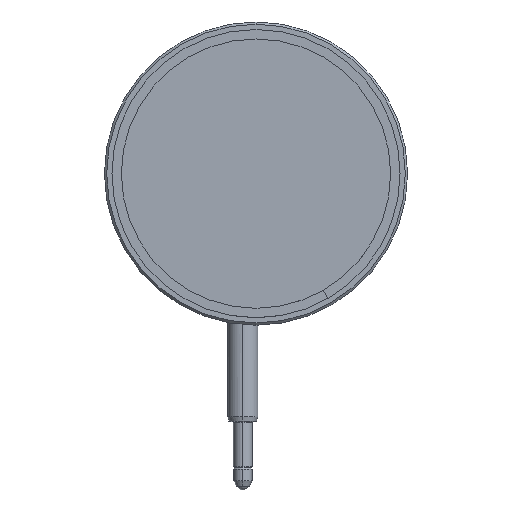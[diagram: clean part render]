
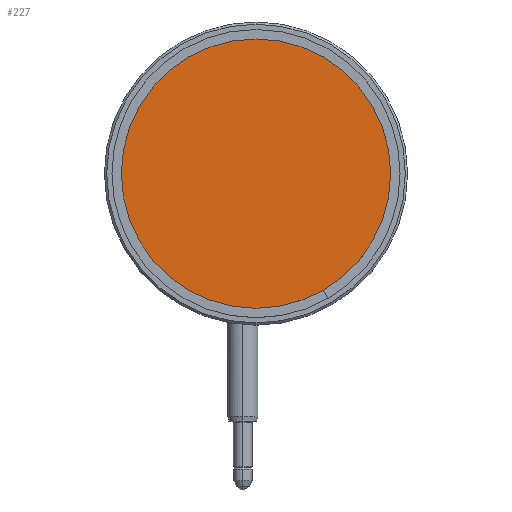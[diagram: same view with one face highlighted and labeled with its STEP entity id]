
A CAD part, front view. The second image highlights one B-rep face of the part: STEP entity #227.
In plain terms, the highlighted planar face has unit normal (0, -1, 0).
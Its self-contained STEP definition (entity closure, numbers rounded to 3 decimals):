
#227=ADVANCED_FACE('',(#535),#536,.T.);
#535=FACE_OUTER_BOUND('',#946,.T.);
#536=PLANE('',#947);
#946=EDGE_LOOP('',(#1577,#1578,#1579,#1580,#1581,#1582));
#947=AXIS2_PLACEMENT_3D('',#1583,#1584,#1585);
#1577=ORIENTED_EDGE('',*,*,#2501,.T.);
#1578=ORIENTED_EDGE('',*,*,#2474,.T.);
#1579=ORIENTED_EDGE('',*,*,#2503,.T.);
#1580=ORIENTED_EDGE('',*,*,#2478,.T.);
#1581=ORIENTED_EDGE('',*,*,#2504,.T.);
#1582=ORIENTED_EDGE('',*,*,#2493,.T.);
#1583=CARTESIAN_POINT('',(0.0,-15.35,0.0));
#1584=DIRECTION('',(0.0,-1.0,0.0));
#1585=DIRECTION('',(1.0,0.0,0.0));
#2474=EDGE_CURVE('',#3007,#3004,#3008,.T.);
#2478=EDGE_CURVE('',#3015,#3013,#3016,.T.);
#2493=EDGE_CURVE('',#3038,#3036,#3039,.T.);
#2501=EDGE_CURVE('',#3036,#3007,#3050,.T.);
#2503=EDGE_CURVE('',#3004,#3015,#3052,.T.);
#2504=EDGE_CURVE('',#3013,#3038,#3053,.T.);
#3004=VERTEX_POINT('',#3783);
#3007=VERTEX_POINT('',#3787);
#3008=CIRCLE('',#3788,35.75);
#3013=VERTEX_POINT('',#3794);
#3015=VERTEX_POINT('',#3797);
#3016=CIRCLE('',#3798,35.75);
#3036=VERTEX_POINT('',#3836);
#3038=VERTEX_POINT('',#3839);
#3039=CIRCLE('',#3840,38.25);
#3050=LINE('',#3853,#3854);
#3052=CIRCLE('',#3856,35.75);
#3053=LINE('',#3857,#3858);
#3783=CARTESIAN_POINT('',(30.96,-15.35,-17.875));
#3787=CARTESIAN_POINT('',(-17.866,-15.35,-30.965));
#3788=AXIS2_PLACEMENT_3D('',#4392,#4393,#4394);
#3794=CARTESIAN_POINT('',(-17.884,-15.35,-30.955));
#3797=CARTESIAN_POINT('',(-30.96,-15.35,17.875));
#3798=AXIS2_PLACEMENT_3D('',#4400,#4401,#4402);
#3836=CARTESIAN_POINT('',(-19.116,-15.35,-33.13));
#3839=CARTESIAN_POINT('',(-19.134,-15.35,-33.12));
#3840=AXIS2_PLACEMENT_3D('',#4421,#4422,#4423);
#3853=CARTESIAN_POINT('',(-9.335,-15.35,-16.189));
#3854=VECTOR('',#4435,1.);
#3856=AXIS2_PLACEMENT_3D('',#4436,#4437,#4438);
#3857=CARTESIAN_POINT('',(-9.352,-15.35,-16.179));
#3858=VECTOR('',#4439,1.0);
#4392=CARTESIAN_POINT('',(0.0,-15.35,0.0));
#4393=DIRECTION('',(0.0,-1.0,0.0));
#4394=DIRECTION('',(0.866,0.0,-0.5));
#4400=CARTESIAN_POINT('',(0.0,-15.35,0.0));
#4401=DIRECTION('',(0.0,-1.0,0.0));
#4402=DIRECTION('',(0.866,0.0,-0.5));
#4421=CARTESIAN_POINT('',(0.0,-15.35,0.0));
#4422=DIRECTION('',(0.0,-1.0,0.0));
#4423=DIRECTION('',(1.0,0.0,0.0));
#4435=DIRECTION('',(0.5,0.0,0.866));
#4436=CARTESIAN_POINT('',(0.0,-15.35,0.0));
#4437=DIRECTION('',(0.0,-1.0,0.0));
#4438=DIRECTION('',(0.866,0.0,-0.5));
#4439=DIRECTION('',(-0.5,0.0,-0.866));
